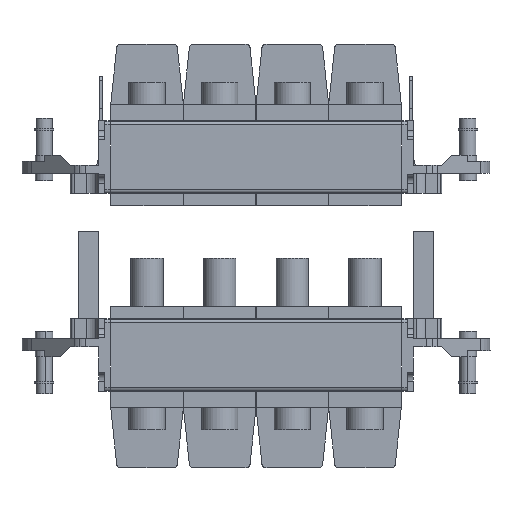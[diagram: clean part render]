
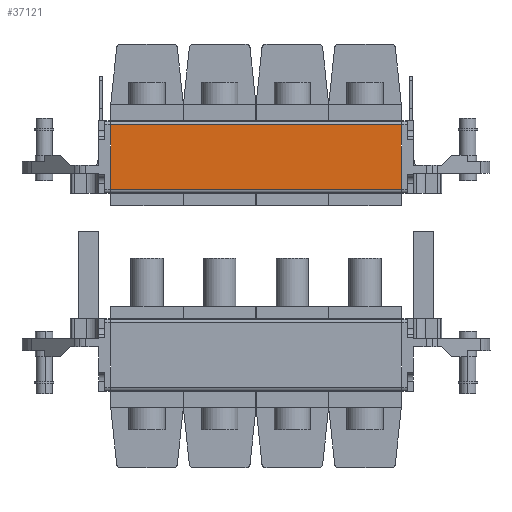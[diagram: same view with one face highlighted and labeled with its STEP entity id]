
A CAD part, front view. The second image highlights one B-rep face of the part: STEP entity #37121.
In plain terms, the highlighted planar face has unit normal (0, -1, 0).
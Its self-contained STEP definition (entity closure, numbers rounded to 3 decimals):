
#32881=CARTESIAN_POINT(' ',(-36.,-17.5,4.));
#32882=VERTEX_POINT(' ',#32881);
#32896=CARTESIAN_POINT(' ',(-36.,-17.5,20.));
#32901=DIRECTION(' ',(0.,0.,-1.));
#32906=VECTOR(' ',#32901,1.);
#32911=LINE('',#32896,#32906);
#32916=CARTESIAN_POINT(' ',(-36.,-17.5,20.));
#32917=VERTEX_POINT(' ',#32916);
#32921=EDGE_CURVE(' ',#32917,#32882,#32911,.T.);
#35881=CARTESIAN_POINT(' ',(36.,-17.5,20.));
#35882=VERTEX_POINT(' ',#35881);
#35896=CARTESIAN_POINT(' ',(36.,-17.5,20.));
#35901=DIRECTION(' ',(0.,0.,-1.));
#35906=VECTOR(' ',#35901,1.);
#35911=LINE('',#35896,#35906);
#35916=CARTESIAN_POINT(' ',(36.,-17.5,4.));
#35917=VERTEX_POINT(' ',#35916);
#35921=EDGE_CURVE(' ',#35882,#35917,#35911,.T.);
#36991=CARTESIAN_POINT(' ',(36.,-17.5,4.));
#36996=DIRECTION(' ',(-1.,0.,0.));
#37001=VECTOR(' ',#36996,1.);
#37006=LINE('',#36991,#37001);
#37011=EDGE_CURVE(' ',#35917,#32882,#37006,.T.);
#37041=DIRECTION(' ',(0.,-1.,0.));
#37046=CARTESIAN_POINT(' ',(36.,-17.5,4.));
#37051=DIRECTION(' ',(0.,0.,1.));
#37056=AXIS2_PLACEMENT_3D(' ',#37046,#37041,#37051);
#37061=PLANE('NONE',#37056);
#37066=CARTESIAN_POINT(' ',(-36.,-17.5,20.));
#37071=DIRECTION(' ',(1.,0.,0.));
#37076=VECTOR(' ',#37071,1.);
#37081=LINE('',#37066,#37076);
#37086=EDGE_CURVE(' ',#32917,#35882,#37081,.T.);
#37091=ORIENTED_EDGE(' ',*,*,#37086,.F.);
#37096=ORIENTED_EDGE(' ',*,*,#32921,.T.);
#37101=ORIENTED_EDGE(' ',*,*,#37011,.F.);
#37106=ORIENTED_EDGE(' ',*,*,#35921,.F.);
#37111=EDGE_LOOP(' ',(#37091,#37096,#37101,#37106));
#37116=FACE_OUTER_BOUND(' ',#37111,.T.);
#37121=ADVANCED_FACE('NONE',(#37116),#37061,.T.);
